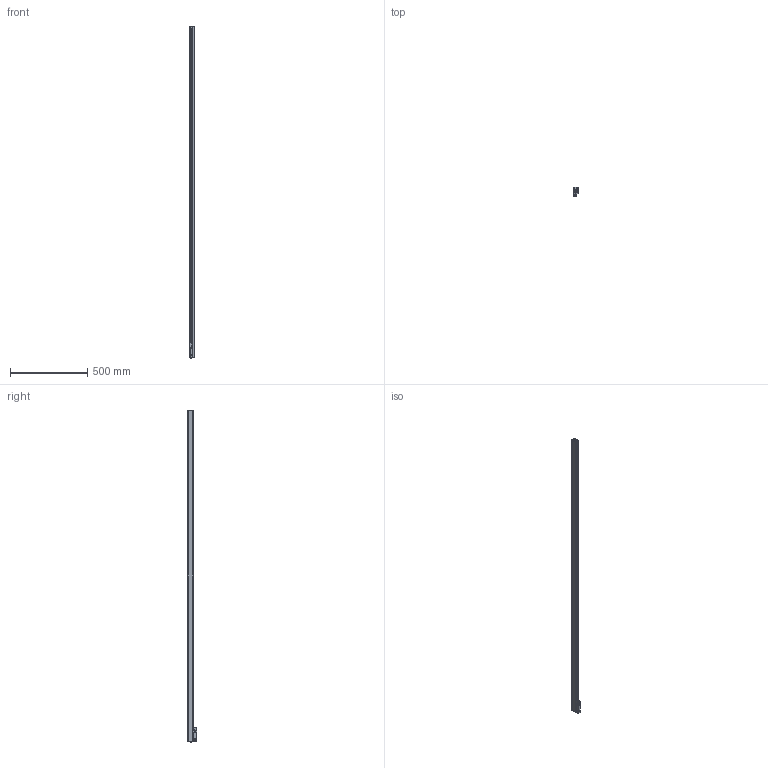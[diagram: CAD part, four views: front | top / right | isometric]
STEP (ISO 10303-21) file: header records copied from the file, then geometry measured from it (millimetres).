
FILE_DESCRIPTION(('Creo Elements/Direct Modeling STEP Export'),'2;1');
FILE_NAME('SV-2040.stp','2011-12-14T15:32:49',(''),(''),'Creo Elements/Direct Modeling STEP processor for AP214 (Solid Model)','Creo Elements/Direct Modeling 17.0C 05-Feb-2011 (C) Parametric Technology GmbH','');
FILE_SCHEMA(('AUTOMOTIVE_DESIGN { 1 0 10303 214 1 1 1 1 }'));
Length unit declared in the file: millimetre
Products named in the file (4): CABEZA_S; PERFIL_SV.2040; SOPORTE_SV.2040; REGLA_SV_2040
Assembly tree (3 placements, depth 2):
  REGLA_SV_2040
    SOPORTE_SV.2040
    PERFIL_SV.2040
    CABEZA_S
Bounding box: 28 x 60.21 x 2152 mm (x, y, z)
Volume: 2368018.5 mm3; surface area: 777343.9 mm2
Topology: 15 solids, 26 shells, 2316 faces, 6383 edges, 4113 vertices
Faces by surface type: cylinder 1026, plane 897, cone 299, torus 80, sphere 12, bspline 2
Entity records: 80578 total; most frequent: CARTESIAN_POINT 16697, ORIENTED_EDGE 12778, DIRECTION 11591, EDGE_CURVE 6321, AXIS2_PLACEMENT_3D 4145, VERTEX_POINT 4113, VECTOR 3301, LINE 3301
